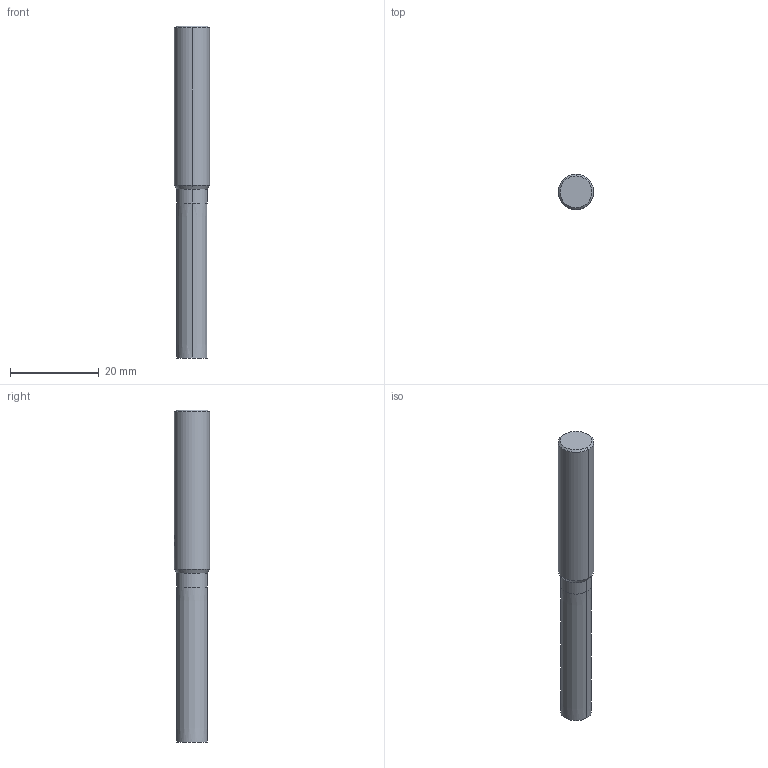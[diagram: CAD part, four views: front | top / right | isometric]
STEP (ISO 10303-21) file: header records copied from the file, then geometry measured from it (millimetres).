
FILE_DESCRIPTION(('no description'),'unknown implementation level');
FILE_NAME('solidcEq0wpK_K7gbxiGdOSLa7lyFk3Q_1.STP',' ',('CIMSOURCE GmbH'),('CADClick - KiM GmbH - www.kimweb.de'),'unknown preprocess','ACIS','unknown authorization');
FILE_SCHEMA(('automotive_design'));
Length unit declared in the file: millimetre
Products named in the file (2): NOCUT; CUT
Bounding box: 8 x 8 x 75 mm (x, y, z)
Volume: 3313.1 mm3; surface area: 1928 mm2
Topology: 2 solids, 2 shells, 28 faces, 65 edges, 42 vertices
Faces by surface type: cylinder 12, plane 10, cone 6
Entity records: 1822 total; most frequent: CARTESIAN_POINT 369, DIRECTION 141, STYLED_ITEM 137, PRESENTATION_STYLE_ASSIGNMENT 137, COLOUR_RGB 137, ORIENTED_EDGE 130, EDGE_CURVE 65, CURVE_STYLE 65
